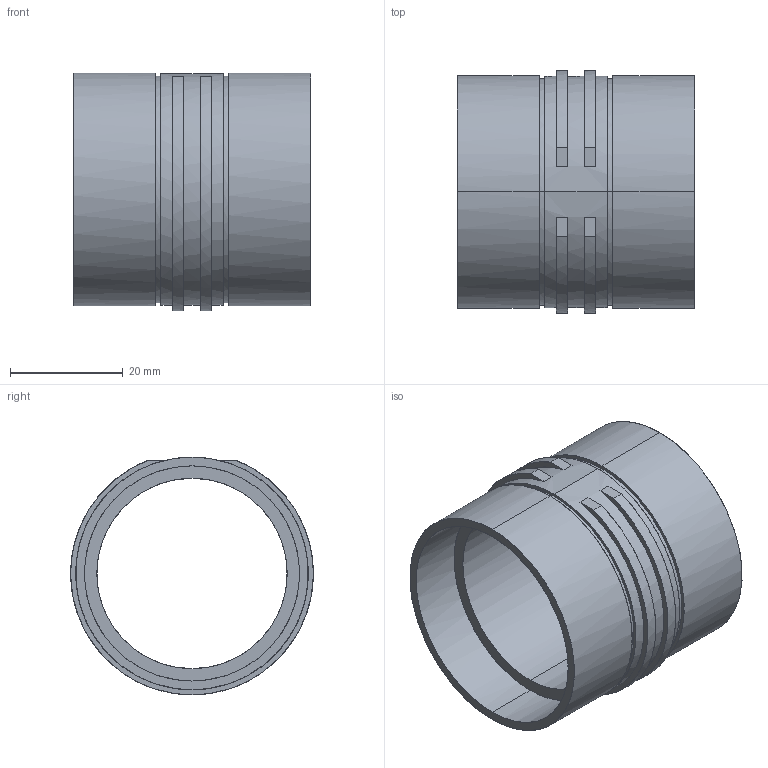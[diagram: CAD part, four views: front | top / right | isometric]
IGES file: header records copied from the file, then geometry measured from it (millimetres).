
Start section: Comment
Global section: file name: 70-38.1U-BH.igs; native system:  By Spatial Corp.; preprocessor: XPlus GENERIC/IGES 3.0; author: Author; organization: Title; date: 20100222.110743; units: inch
Bounding box: 42 x 43 x 42.1 mm (x, y, z)
Surface area: 11782.4 mm2 (no closed solid volume)
Topology: 0 solids, 0 shells, 34 faces, 164 edges, 164 vertices
Faces by surface type: bspline 34
